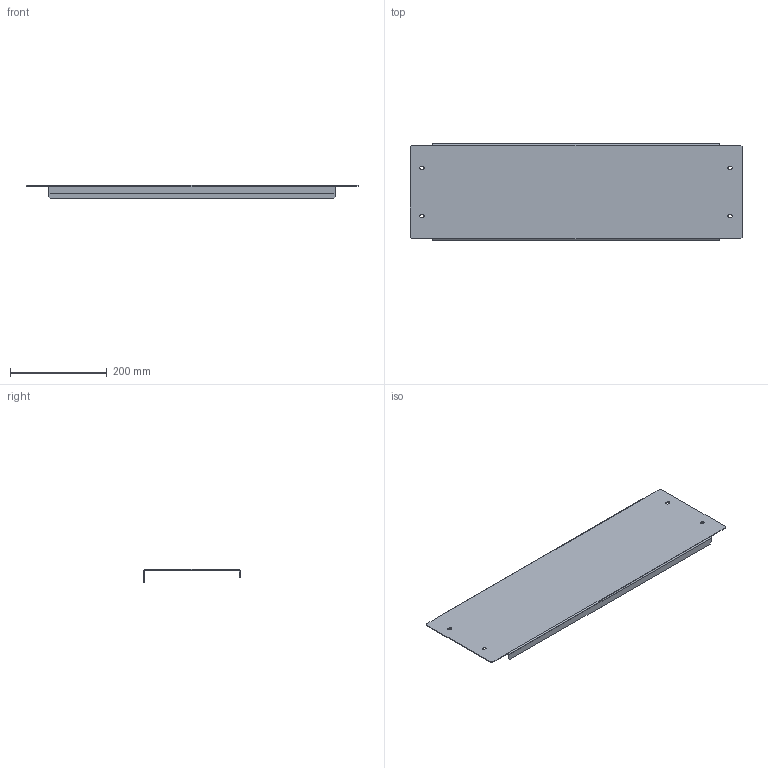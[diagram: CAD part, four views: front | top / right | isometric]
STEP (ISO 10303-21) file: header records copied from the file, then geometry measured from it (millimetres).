
FILE_DESCRIPTION (( 'STEP AP203' ), '1' );
FILE_NAME ('ZA 80 H Ïàíåëü öîêîëÿ.STEP', '2012-11-20T05:15:48', ( 'system' ), ( '' ), 'SwSTEP 2.0', 'SolidWorks 2012', '' );
FILE_SCHEMA (( 'CONFIG_CONTROL_DESIGN' ));
Length unit declared in the file: millimetre
Products named in the file (1): ZA 80 H Ïàíåëü öîêîëÿ
Bounding box: 686.5 x 199 x 27 mm (x, y, z)
Volume: 222178.4 mm3; surface area: 320104.7 mm2
Topology: 1 solids, 1 shells, 54 faces, 140 edges, 88 vertices
Faces by surface type: plane 38, cylinder 16
Entity records: 1721 total; most frequent: CARTESIAN_POINT 283, DIRECTION 282, ORIENTED_EDGE 280, EDGE_CURVE 140, LINE 108, VECTOR 108, VERTEX_POINT 88, AXIS2_PLACEMENT_3D 87
